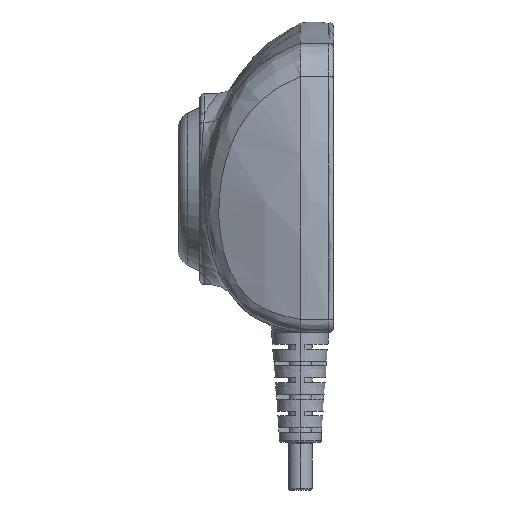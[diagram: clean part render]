
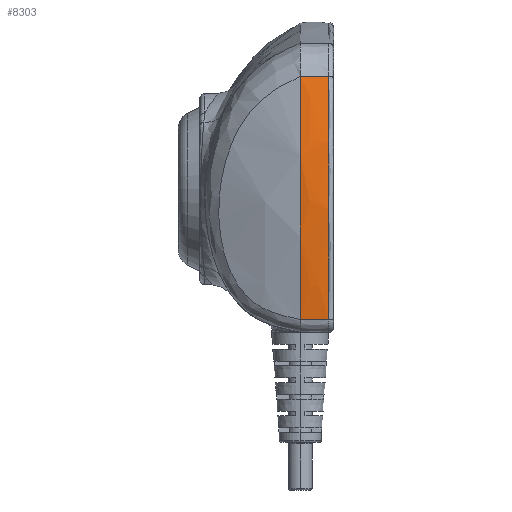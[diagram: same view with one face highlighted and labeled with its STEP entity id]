
A CAD part, left-side view. The second image highlights one B-rep face of the part: STEP entity #8303.
In plain terms, the highlighted free-form (B-spline) face has degree [3, 3] with [8, 4] control points.
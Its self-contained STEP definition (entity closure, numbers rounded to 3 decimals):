
#4313 = B_SPLINE_CURVE_WITH_KNOTS ( 'NONE', 3,
 ( #14901, #14914, #14915, #14916, #14917, #14918, #14919, #14920, #14921, #14922, #14923, #14924, #14925, #14926 ),
 .UNSPECIFIED., .F., .F.,
 ( 4, 2, 2, 2, 2, 2, 4 ),
 ( 0., 0.013, 0.019, 0.026, 0.032, 0.039, 0.051 ),
 .UNSPECIFIED. ) ;
#4339 = B_SPLINE_CURVE_WITH_KNOTS ( 'NONE', 3,
 ( #16175, #16186, #16187, #16188, #16189, #16190, #16191, #16192 ),
 .UNSPECIFIED., .F., .F.,
 ( 4, 1, 1, 1, 1, 4 ),
 ( 0., 0.082, 0.268, 0.52, 0.864, 1. ),
 .UNSPECIFIED. ) ;
#4400 = B_SPLINE_SURFACE_WITH_KNOTS ( 'NONE', 3, 3, ( 
 ( #12138, #12085, #12087, #12140 ),
 ( #12141, #12142, #12143, #12144 ),
 ( #12145, #12146, #12147, #12148 ),
 ( #12149, #12150, #12151, #12152 ),
 ( #12153, #12154, #12155, #12156 ),
 ( #12157, #12158, #12159, #12160 ),
 ( #12161, #12162, #12163, #12164 ),
 ( #12165, #12166, #12167, #12168 ) ),
 .UNSPECIFIED., .F., .F., .F.,
 ( 4, 1, 1, 1, 1, 4 ),
 ( 4, 4 ),
 ( 0.228, 0.28, 0.399, 0.56, 0.78, 0.867 ),
 ( 0., 1. ),
 .UNSPECIFIED. ) ;
#4586 = ORIENTED_EDGE ( 'NONE', *, *, #20831, .F. ) ;
#4587 = ORIENTED_EDGE ( 'NONE', *, *, #20834, .T. ) ;
#4588 = ORIENTED_EDGE ( 'NONE', *, *, #20844, .T. ) ;
#4589 = ORIENTED_EDGE ( 'NONE', *, *, #21000, .T. ) ;
#5080 = VERTEX_POINT ( 'NONE', #20125 ) ;
#5081 = VERTEX_POINT ( 'NONE', #20126 ) ;
#5150 = VERTEX_POINT ( 'NONE', #20195 ) ;
#5155 = VERTEX_POINT ( 'NONE', #20200 ) ;
#8303 = ADVANCED_FACE ( 'NONE', ( #16718 ), #4400, .F. ) ;
#8686 = LINE ( 'NONE', #14899, #8694 ) ;
#8694 = VECTOR ( 'NONE', #14900, 1000. ) ;
#8701 = VECTOR ( 'NONE', #15014, 1000. ) ;
#8706 = LINE ( 'NONE', #15013, #8701 ) ;
#8959 = EDGE_LOOP ( 'NONE', ( #4586, #4587, #4588, #4589 ) ) ;
#12085 = CARTESIAN_POINT ( 'NONE',  ( -96.755, -4., 23.606 ) ) ;
#12087 = CARTESIAN_POINT ( 'NONE',  ( -96.755, -2., 23.606 ) ) ;
#12138 = CARTESIAN_POINT ( 'NONE',  ( -96.755, -6., 23.606 ) ) ;
#12140 = CARTESIAN_POINT ( 'NONE',  ( -96.755, 0., 23.606 ) ) ;
#12141 = CARTESIAN_POINT ( 'NONE',  ( -97.159, -6., 22.262 ) ) ;
#12142 = CARTESIAN_POINT ( 'NONE',  ( -97.159, -4., 22.262 ) ) ;
#12143 = CARTESIAN_POINT ( 'NONE',  ( -97.159, -2., 22.262 ) ) ;
#12144 = CARTESIAN_POINT ( 'NONE',  ( -97.159, 0., 22.262 ) ) ;
#12145 = CARTESIAN_POINT ( 'NONE',  ( -98.423, -6., 17.852 ) ) ;
#12146 = CARTESIAN_POINT ( 'NONE',  ( -98.423, -4., 17.852 ) ) ;
#12147 = CARTESIAN_POINT ( 'NONE',  ( -98.423, -2., 17.852 ) ) ;
#12148 = CARTESIAN_POINT ( 'NONE',  ( -98.423, 0., 17.852 ) ) ;
#12149 = CARTESIAN_POINT ( 'NONE',  ( -100.417, -6., 9.22 ) ) ;
#12150 = CARTESIAN_POINT ( 'NONE',  ( -100.417, -4., 9.22 ) ) ;
#12151 = CARTESIAN_POINT ( 'NONE',  ( -100.417, -2., 9.22 ) ) ;
#12152 = CARTESIAN_POINT ( 'NONE',  ( -100.417, 0., 9.22 ) ) ;
#12153 = CARTESIAN_POINT ( 'NONE',  ( -101.802, -6., -4.01 ) ) ;
#12154 = CARTESIAN_POINT ( 'NONE',  ( -101.802, -4., -4.01 ) ) ;
#12155 = CARTESIAN_POINT ( 'NONE',  ( -101.802, -2., -4.01 ) ) ;
#12156 = CARTESIAN_POINT ( 'NONE',  ( -101.802, 0., -4.01 ) ) ;
#12157 = CARTESIAN_POINT ( 'NONE',  ( -101.589, -6., -16.618 ) ) ;
#12158 = CARTESIAN_POINT ( 'NONE',  ( -101.589, -4., -16.618 ) ) ;
#12159 = CARTESIAN_POINT ( 'NONE',  ( -101.589, -2., -16.618 ) ) ;
#12160 = CARTESIAN_POINT ( 'NONE',  ( -101.589, 0., -16.618 ) ) ;
#12161 = CARTESIAN_POINT ( 'NONE',  ( -101.05, -6., -24.945 ) ) ;
#12162 = CARTESIAN_POINT ( 'NONE',  ( -101.05, -4., -24.945 ) ) ;
#12163 = CARTESIAN_POINT ( 'NONE',  ( -101.05, -2., -24.945 ) ) ;
#12164 = CARTESIAN_POINT ( 'NONE',  ( -101.05, 0., -24.945 ) ) ;
#12165 = CARTESIAN_POINT ( 'NONE',  ( -100.879, -6., -27.307 ) ) ;
#12166 = CARTESIAN_POINT ( 'NONE',  ( -100.879, -4., -27.307 ) ) ;
#12167 = CARTESIAN_POINT ( 'NONE',  ( -100.879, -2., -27.307 ) ) ;
#12168 = CARTESIAN_POINT ( 'NONE',  ( -100.879, 0., -27.307 ) ) ;
#14899 = CARTESIAN_POINT ( 'NONE',  ( -100.879, -7., -27.307 ) ) ;
#14900 = DIRECTION ( 'NONE',  ( 0., 1., 0. ) ) ;
#14901 = CARTESIAN_POINT ( 'NONE',  ( -100.879, -6., -27.307 ) ) ;
#14914 = CARTESIAN_POINT ( 'NONE',  ( -101.19, -6., -23.033 ) ) ;
#14915 = CARTESIAN_POINT ( 'NONE',  ( -101.438, -6., -18.758 ) ) ;
#14916 = CARTESIAN_POINT ( 'NONE',  ( -101.602, -6., -12.34 ) ) ;
#14917 = CARTESIAN_POINT ( 'NONE',  ( -101.622, -6., -10.2 ) ) ;
#14918 = CARTESIAN_POINT ( 'NONE',  ( -101.57, -6., -5.918 ) ) ;
#14919 = CARTESIAN_POINT ( 'NONE',  ( -101.499, -6., -3.774 ) ) ;
#14920 = CARTESIAN_POINT ( 'NONE',  ( -101.243, -6., 0.508 ) ) ;
#14921 = CARTESIAN_POINT ( 'NONE',  ( -101.06, -6., 2.643 ) ) ;
#14922 = CARTESIAN_POINT ( 'NONE',  ( -100.559, -6., 6.897 ) ) ;
#14923 = CARTESIAN_POINT ( 'NONE',  ( -100.242, -6., 9.018 ) ) ;
#14924 = CARTESIAN_POINT ( 'NONE',  ( -99.063, -6., 15.347 ) ) ;
#14925 = CARTESIAN_POINT ( 'NONE',  ( -97.99, -6., 19.497 ) ) ;
#14926 = CARTESIAN_POINT ( 'NONE',  ( -96.755, -6., 23.606 ) ) ;
#15013 = CARTESIAN_POINT ( 'NONE',  ( -96.755, -7., 23.606 ) ) ;
#15014 = DIRECTION ( 'NONE',  ( 0., 1., 0. ) ) ;
#16175 = CARTESIAN_POINT ( 'NONE',  ( -96.755, 0., 23.606 ) ) ;
#16186 = CARTESIAN_POINT ( 'NONE',  ( -97.159, 0., 22.262 ) ) ;
#16187 = CARTESIAN_POINT ( 'NONE',  ( -98.423, 0., 17.852 ) ) ;
#16188 = CARTESIAN_POINT ( 'NONE',  ( -100.417, 0., 9.22 ) ) ;
#16189 = CARTESIAN_POINT ( 'NONE',  ( -101.802, 0., -4.01 ) ) ;
#16190 = CARTESIAN_POINT ( 'NONE',  ( -101.589, 0., -16.618 ) ) ;
#16191 = CARTESIAN_POINT ( 'NONE',  ( -101.05, 0., -24.945 ) ) ;
#16192 = CARTESIAN_POINT ( 'NONE',  ( -100.879, 0., -27.307 ) ) ;
#16718 = FACE_OUTER_BOUND ( 'NONE', #8959, .T. ) ;
#20125 = CARTESIAN_POINT ( 'NONE',  ( -96.755, 0., 23.606 ) ) ;
#20126 = CARTESIAN_POINT ( 'NONE',  ( -100.879, 0., -27.307 ) ) ;
#20195 = CARTESIAN_POINT ( 'NONE',  ( -100.879, -6., -27.307 ) ) ;
#20200 = CARTESIAN_POINT ( 'NONE',  ( -96.755, -6., 23.606 ) ) ;
#20831 = EDGE_CURVE ( 'NONE', #5150, #5081, #8686, .T. ) ;
#20834 = EDGE_CURVE ( 'NONE', #5150, #5155, #4313, .T. ) ;
#20844 = EDGE_CURVE ( 'NONE', #5155, #5080, #8706, .T. ) ;
#21000 = EDGE_CURVE ( 'NONE', #5080, #5081, #4339, .T. ) ;
